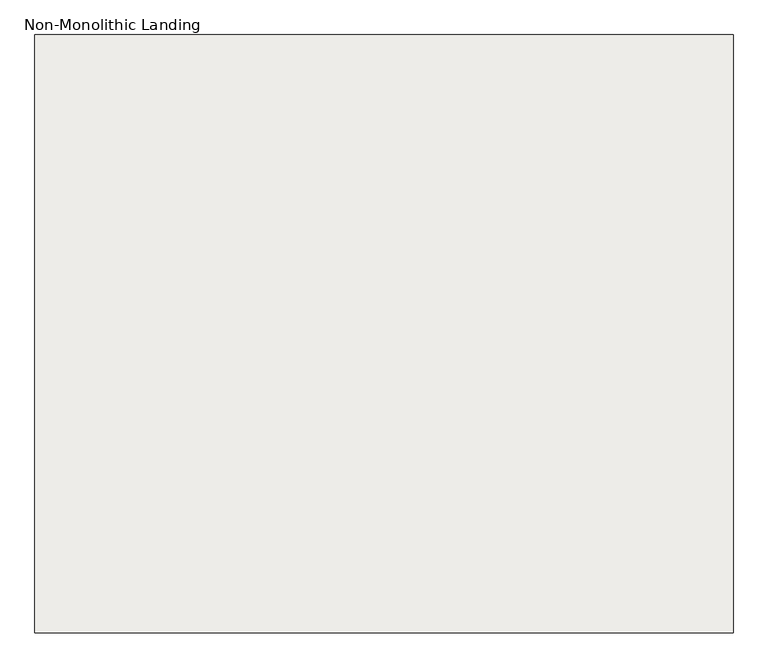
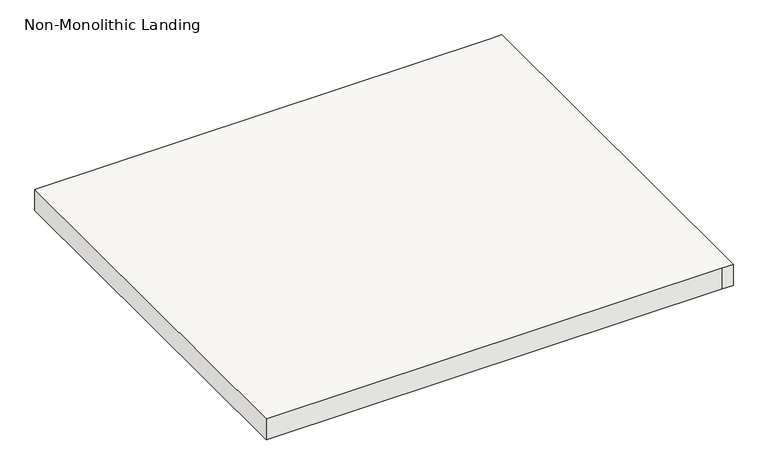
"""IFC4 building model written with IfcOpenShell, lengths in millimetres: slab geometry, Non-Monolithic Landing."""

from ifc_helpers import new_model, si_unit, frame, origin, place, context, project, spatial, polyline, outline, extrude, source, transform, mapped, element, save


def non_monolithic_landing_c6eaa501(model_context):
    return source(origin(), model_context, "Body", "SweptSolid", [
        extrude(outline(polyline([(5276.9721922, 13883.1406645), (6318.3721922, 13883.1406645), (6343.7721922, 13883.1406645), (6343.7721922, 12968.7406645), (6318.3721922, 12968.7406645), (5276.9721922, 12968.7406645), (5276.9721922, 13883.1406645)])), frame((0.0, 0.0, 2069.5478261), z_axis=(0.0, 0.0, 1.0), x_axis=(1.0, 0.0, 0.0)), (0.0, 0.0, 1.0), 50.8),
    ])


if __name__ == "__main__":
    model = new_model("IFC4")
    model_context = context("Model", 3, world=origin())
    ifc_project = project(units=[si_unit("LENGTHUNIT", "METRE", prefix="MILLI")], contexts=[model_context])
    site = spatial("IfcSite", under=ifc_project)
    building = spatial("IfcBuilding", under=site)
    placement = place(None, origin())
    non_monolithic_landing_shape = non_monolithic_landing_c6eaa501(model_context)
    element("IfcSlab", 1, ObjectType="Non-Monolithic Landing", at=placement, inside=building, context=model_context, shape_type="MappedRepresentation", body=[
        mapped(non_monolithic_landing_shape, transform((0.0, 0.0, 0.0), x_axis=(1.0, 0.0, 0.0), y_axis=(0.0, 1.0, 0.0), z_axis=(0.0, 0.0, 1.0))),
    ])
    save(model, "model.ifc")
